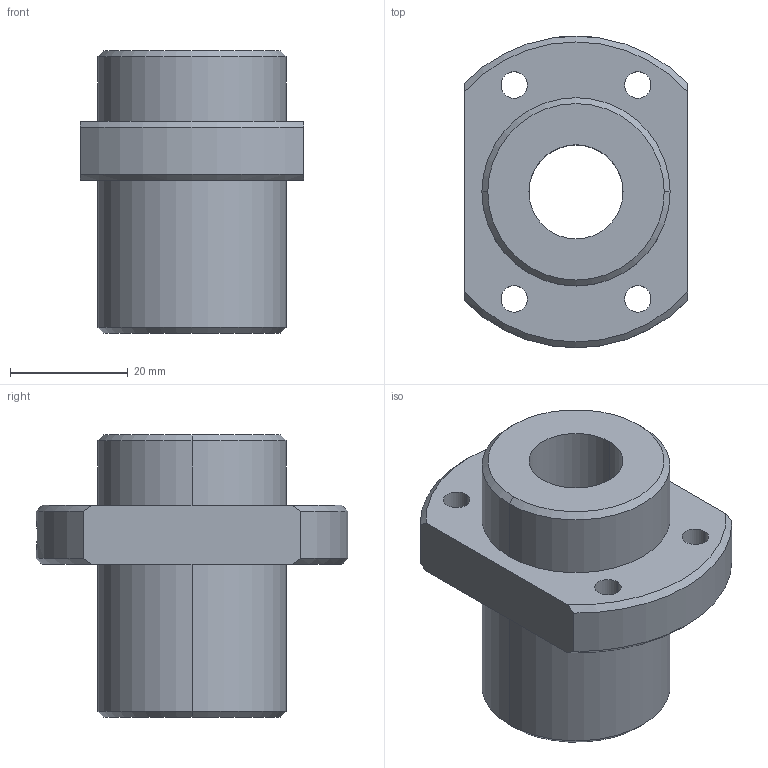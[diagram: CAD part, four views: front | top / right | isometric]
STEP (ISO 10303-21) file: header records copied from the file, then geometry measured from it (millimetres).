
FILE_DESCRIPTION((''),'2;1');
FILE_NAME('A11HSWA1','2018-09-05T14:22:00',('bryant.lin'),(''),'CREO PARAMETRIC BY PTC INC, 2018050','CREO PARAMETRIC BY PTC INC, 2018050','');
FILE_SCHEMA(('CONFIG_CONTROL_DESIGN'));
Length unit declared in the file: millimetre
Products named in the file (1): A11HSWA1
Bounding box: 38 x 53 x 48 mm (x, y, z)
Volume: 38113.9 mm3; surface area: 11429.1 mm2
Topology: 1 solids, 1 shells, 33 faces, 80 edges, 52 vertices
Faces by surface type: cylinder 18, cone 8, plane 7
Entity records: 1072 total; most frequent: CARTESIAN_POINT 215, DIRECTION 178, ORIENTED_EDGE 160, EDGE_CURVE 80, AXIS2_PLACEMENT_3D 75, VERTEX_POINT 52, EDGE_LOOP 46, CIRCLE 42
